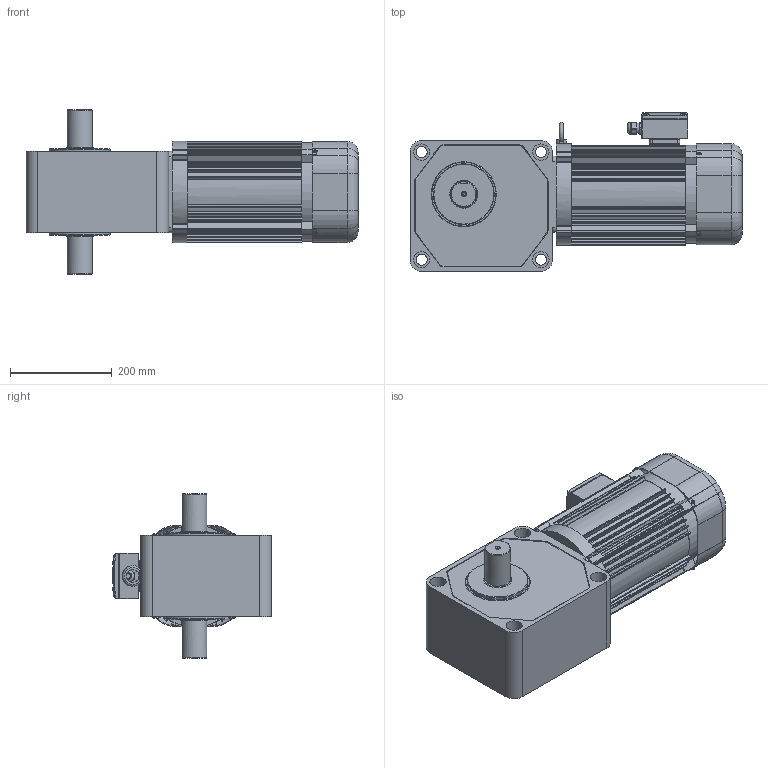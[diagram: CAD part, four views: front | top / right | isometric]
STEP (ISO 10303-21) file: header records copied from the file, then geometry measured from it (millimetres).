
FILE_DESCRIPTION(/* description */ (''),/* implementation_level */ '2;1');
FILE_NAME(/* name */ 'Z:\동력 3D 파일\PCS50B_2.2kW_Brake_3D.stp',/* time_stamp */ '2021-11-09T17:27:00+09:00',/* author */ ('jaebok'),/* organization */ (''),/* preprocessor_version */ 'ST-DEVELOPER v18.1',/* originating_system */ 'Autodesk Inventor 2022',/* authorisation */ '');
FILE_SCHEMA (('AUTOMOTIVE_DESIGN { 1 0 10303 214 3 1 1 }'));
Length unit declared in the file: millimetre
Products named in the file (1): 부품80
Bounding box: 654.1 x 313 x 324 mm (x, y, z)
Volume: 15514868.7 mm3; surface area: 1159604.7 mm2
Topology: 1 solids, 25 shells, 1472 faces, 3935 edges, 2560 vertices
Faces by surface type: plane 723, cylinder 632, torus 52, cone 51, bspline 10, sphere 4
Full cylindrical faces by diameter (mm): 3.242 x4, 3.25 x1, 3.6 x4, 4 x21, 5 x13, 6 x5, 6.647 x6, 7 x8, 8 x1, 8.8 x1, 9 x4, 10 x3, 12.5 x1, 15 x1, 20 x2, 21 x1, 22 x4, 23.6 x1, 25 x2, 32 x4, 36 x1, 50 x2, 120 x2, 175 x1, 176 x1, 180 x2, 181 x1, 182 x1, 185.4 x2, 188 x4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
Entity records: 49042 total; most frequent: CARTESIAN_POINT 9849, DIRECTION 8217, ORIENTED_EDGE 7840, EDGE_CURVE 3920, AXIS2_PLACEMENT_3D 3038, VERTEX_POINT 2560, LINE 2141, VECTOR 2141
